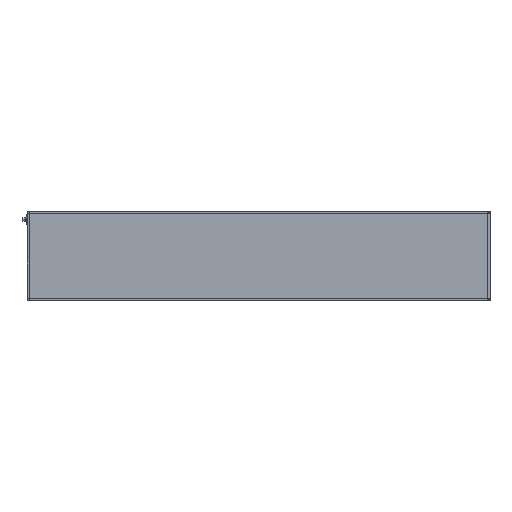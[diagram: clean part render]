
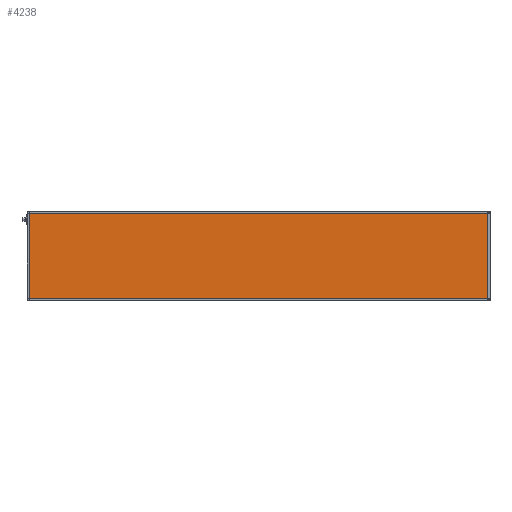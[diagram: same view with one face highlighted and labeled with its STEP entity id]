
A CAD part, top view. The second image highlights one B-rep face of the part: STEP entity #4238.
In plain terms, the highlighted planar face has unit normal (0, 0, 1).
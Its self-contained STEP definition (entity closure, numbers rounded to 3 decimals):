
#152 = EDGE_CURVE ( 'NONE', #17034, #3327, #7138, .T. ) ;
#1126 = VECTOR ( 'NONE', #7775, 1000. ) ;
#1151 = AXIS2_PLACEMENT_3D ( 'NONE', #17232, #13299, #9283 ) ;
#2215 = EDGE_LOOP ( 'NONE', ( #10665, #14330, #7581, #13041 ) ) ;
#2877 = CARTESIAN_POINT ( 'NONE',  ( 1596., 296., 41.85 ) ) ;
#2988 = VERTEX_POINT ( 'NONE', #13924 ) ;
#3327 = VERTEX_POINT ( 'NONE', #2877 ) ;
#3822 = DIRECTION ( 'NONE',  ( -1., 0., 0. ) ) ;
#4238 = ADVANCED_FACE ( 'NONE', ( #13216 ), #15829, .F. ) ;
#5093 = CARTESIAN_POINT ( 'NONE',  ( 4., 0., 41.85 ) ) ;
#6637 = VERTEX_POINT ( 'NONE', #12446 ) ;
#7138 = LINE ( 'NONE', #16374, #16291 ) ;
#7364 = VECTOR ( 'NONE', #3822, 1000. ) ;
#7581 = ORIENTED_EDGE ( 'NONE', *, *, #11016, .T. ) ;
#7775 = DIRECTION ( 'NONE',  ( 0., -1., 0. ) ) ;
#7983 = CARTESIAN_POINT ( 'NONE',  ( 0., 296., 41.85 ) ) ;
#9283 = DIRECTION ( 'NONE',  ( -1., 0., 0. ) ) ;
#9534 = VECTOR ( 'NONE', #12761, 1000. ) ;
#10665 = ORIENTED_EDGE ( 'NONE', *, *, #152, .T. ) ;
#11016 = EDGE_CURVE ( 'NONE', #2988, #6637, #17018, .T. ) ;
#11450 = LINE ( 'NONE', #12496, #9534 ) ;
#12077 = LINE ( 'NONE', #7983, #7364 ) ;
#12446 = CARTESIAN_POINT ( 'NONE',  ( 4., 4., 41.85 ) ) ;
#12496 = CARTESIAN_POINT ( 'NONE',  ( 0., 4., 41.85 ) ) ;
#12761 = DIRECTION ( 'NONE',  ( 1., 0., 0. ) ) ;
#13041 = ORIENTED_EDGE ( 'NONE', *, *, #14820, .T. ) ;
#13216 = FACE_OUTER_BOUND ( 'NONE', #2215, .T. ) ;
#13299 = DIRECTION ( 'NONE',  ( 0., 0., -1. ) ) ;
#13833 = DIRECTION ( 'NONE',  ( 0., 1., 0. ) ) ;
#13924 = CARTESIAN_POINT ( 'NONE',  ( 4., 296., 41.85 ) ) ;
#14330 = ORIENTED_EDGE ( 'NONE', *, *, #15851, .T. ) ;
#14820 = EDGE_CURVE ( 'NONE', #6637, #17034, #11450, .T. ) ;
#15829 = PLANE ( 'NONE',  #1151 ) ;
#15851 = EDGE_CURVE ( 'NONE', #3327, #2988, #12077, .T. ) ;
#16291 = VECTOR ( 'NONE', #13833, 1000. ) ;
#16374 = CARTESIAN_POINT ( 'NONE',  ( 1596., 0., 41.85 ) ) ;
#17014 = CARTESIAN_POINT ( 'NONE',  ( 1596., 4., 41.85 ) ) ;
#17018 = LINE ( 'NONE', #5093, #1126 ) ;
#17034 = VERTEX_POINT ( 'NONE', #17014 ) ;
#17232 = CARTESIAN_POINT ( 'NONE',  ( 0., 0., 41.85 ) ) ;
